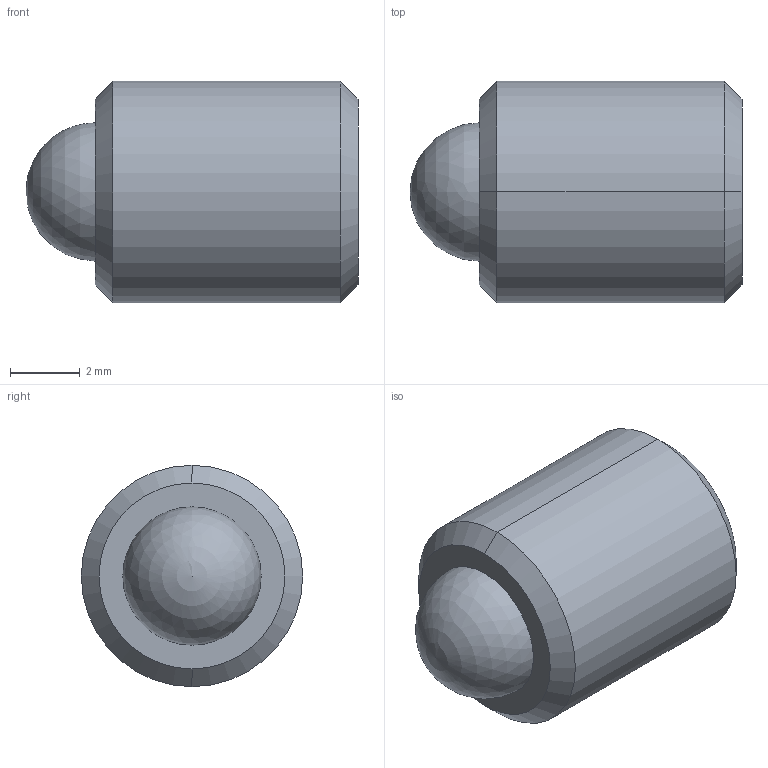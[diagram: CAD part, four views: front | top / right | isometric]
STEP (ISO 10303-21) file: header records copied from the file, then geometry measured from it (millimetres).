
FILE_DESCRIPTION (( 'STEP AP214' ), '1' );
FILE_NAME ('TS250-100-375.STEP', '2013-02-11T22:24:41', ( 'workpc' ), ( 'Microsoft' ), 'SwSTEP 2.0', 'SolidWorks 2013', '' );
FILE_SCHEMA (( 'AUTOMOTIVE_DESIGN' ));
Length unit declared in the file: inch
Products named in the file (1): TS250-100-375
Bounding box: 9.53 x 6.35 x 6.35 mm (x, y, z)
Volume: 231 mm3; surface area: 294.3 mm2
Topology: 2 solids, 2 shells, 20 faces, 45 edges, 29 vertices
Faces by surface type: plane 10, cylinder 4, cone 4, sphere 2
Entity records: 599 total; most frequent: DIRECTION 96, CARTESIAN_POINT 87, ORIENTED_EDGE 80, EDGE_CURVE 40, AXIS2_PLACEMENT_3D 35, VECTOR 26, LINE 26, VERTEX_POINT 26
